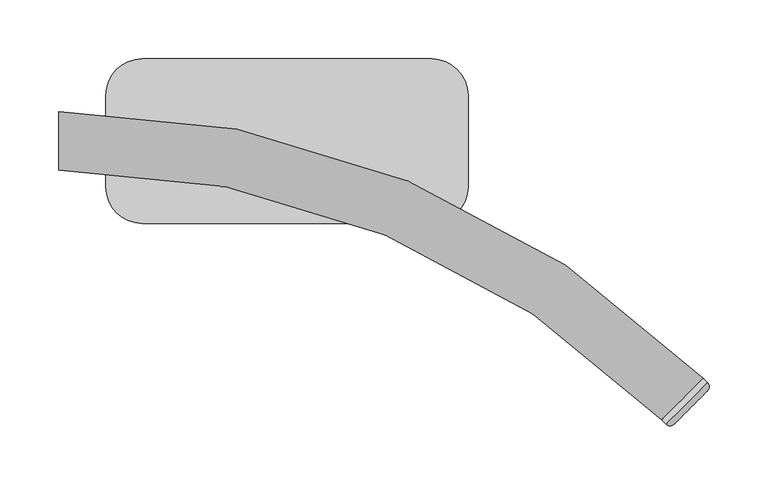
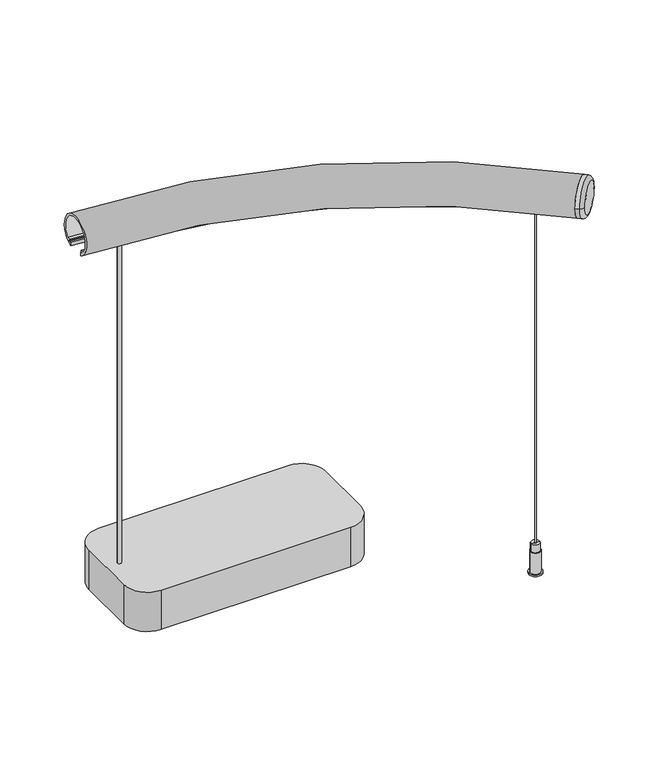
"""IFC4 building model written with IfcOpenShell, lengths in millimetres: light fixture geometry, ARTEMIDE-AoL-System-Curved_Suspended_US : Suspended_Curved 45°-750mm 1118lm 3500K."""

import ifcopenshell
import ifcopenshell.guid

model = None  # the IFC model being written
_history = None  # IfcOwnerHistory: only IFC2X3 demands one
_inside = {}  # id of a spatial element -> (the spatial element, [elements in it])
_under = {}  # id of a project, library or spatial element -> (it, [spatial elements below it])
_declared = {}  # id of a project -> (the project, [libraries it declares])
_typed = {}  # id of a type object -> (the type object, [elements of that type])
_made_of = {}  # id of a material, layer set ... -> (it, [elements and type objects made of it])


def new_model(schema):
    """Start an empty IFC model of exactly this schema.

    Asked for "IFC4X3", IfcOpenShell would pick the latest addendum, in which some entities
    have other attributes; the version numbers below select the first issue.
    IFC2X3 requires an IfcOwnerHistory on every rooted entity: one is made here for all.
    """
    global model, _history
    if schema == "IFC4X3":
        model = ifcopenshell.file(schema_version=(4, 3, 0, 0))
    else:
        model = ifcopenshell.file(schema=schema)
    _inside.clear()
    _under.clear()
    _declared.clear()
    _typed.clear()
    _made_of.clear()
    _history = None
    if model.schema == "IFC2X3":
        org = make("IfcOrganization", Name="unknown")
        user = make(
            "IfcPersonAndOrganization",
            ThePerson=make("IfcPerson", FamilyName="unknown"),
            TheOrganization=org,
        )
        app = make(
            "IfcApplication",
            ApplicationDeveloper=org,
            Version="unknown",
            ApplicationFullName="unknown",
            ApplicationIdentifier="unknown",
        )
        _history = make(
            "IfcOwnerHistory",
            OwningUser=user,
            OwningApplication=app,
            ChangeAction="ADDED",
            CreationDate=0,
        )
    return model


def make(cls, **values):
    """One entity of the class cls with the attributes given. An attribute that is None is left unset."""
    return model.create_entity(
        cls, **{name: value for name, value in values.items() if value is not None}
    )


def rooted(cls, **values):
    """An entity with a GlobalId (a new one), such as an element, a storey or a relation."""
    return make(cls, GlobalId=ifcopenshell.guid.new(), OwnerHistory=_history, **values)


def si_unit(unit_type, name, prefix=None):
    """IfcSIUnit, for example si_unit("LENGTHUNIT", "METRE", prefix="MILLI")."""
    return make("IfcSIUnit", UnitType=unit_type, Prefix=prefix, Name=name)


def assignment(units):
    """IfcUnitAssignment: the units of a project."""
    return None if units is None else make("IfcUnitAssignment", Units=units)


def point(xyz):
    """IfcCartesianPoint."""
    return None if xyz is None else make("IfcCartesianPoint", Coordinates=xyz)


def direction(xyz):
    """IfcDirection."""
    return None if xyz is None else make("IfcDirection", DirectionRatios=xyz)


def frame(location, z_axis=None, x_axis=None):
    """IfcAxis2Placement3D, a coordinate frame: its origin and axes. An axis left out is left unset."""
    return make(
        "IfcAxis2Placement3D",
        Location=point(location),
        Axis=direction(z_axis),
        RefDirection=direction(x_axis),
    )


def frame_2d(location, x_axis=None):
    """IfcAxis2Placement2D, a coordinate frame in the plane: its origin and x axis."""
    return make(
        "IfcAxis2Placement2D", Location=point(location), RefDirection=direction(x_axis)
    )


def origin():
    """The frame at (0, 0, 0) with its axes left unset."""
    return frame((0.0, 0.0, 0.0))


def origin_with_axes():
    """The frame at (0, 0, 0) with the z axis (0, 0, 1) and the x axis (1, 0, 0) written out."""
    return frame((0.0, 0.0, 0.0), z_axis=(0.0, 0.0, 1.0), x_axis=(1.0, 0.0, 0.0))


def place(relative_to, where):
    """IfcLocalPlacement: puts the frame where relative to a parent placement (None: the world)."""
    return make(
        "IfcLocalPlacement", PlacementRelTo=relative_to, RelativePlacement=where
    )


def context(
    kind, dimensions, precision=None, world=None, true_north=None, identifier=None
):
    """IfcGeometricRepresentationContext, for example the 3D "Model" context."""
    return make(
        "IfcGeometricRepresentationContext",
        ContextIdentifier=identifier,
        ContextType=kind,
        CoordinateSpaceDimension=dimensions,
        Precision=precision,
        WorldCoordinateSystem=world,
        TrueNorth=true_north,
    )


def project(units=None, contexts=None):
    """IfcProject with its units and contexts."""
    return rooted(
        "IfcProject",
        Name="project",
        RepresentationContexts=contexts,
        UnitsInContext=assignment(units),
    )


def spatial(cls, under=None, at=None, **own):
    """A site, building, storey or space (cls), placed at a placement, below another one or the project."""
    s = rooted(cls, ObjectPlacement=at, **own)
    if under is not None:
        _under.setdefault(under.id(), (under, []))[1].append(s)
    return s


def polyline(points):
    """IfcPolyline through the points."""
    return make("IfcPolyline", Points=[point(p) for p in points])


def circle_curve(where, radius):
    """IfcCircle in the frame where."""
    return make("IfcCircle", Position=where, Radius=radius)


def ellipse_curve(where, semi_axis1, semi_axis2):
    """IfcEllipse in the frame where."""
    return make(
        "IfcEllipse", Position=where, SemiAxis1=semi_axis1, SemiAxis2=semi_axis2
    )


def trimmed(basis, trim1, trim2, sense, master):
    """IfcTrimmedCurve: the piece of a basis curve between two trims."""
    return make(
        "IfcTrimmedCurve",
        BasisCurve=basis,
        Trim1=trim1,
        Trim2=trim2,
        SenseAgreement=sense,
        MasterRepresentation=master,
    )


def segment(curve, same_sense, transition):
    """IfcCompositeCurveSegment."""
    return make(
        "IfcCompositeCurveSegment",
        Transition=transition,
        SameSense=same_sense,
        ParentCurve=curve,
    )


def composite_curve(segments, self_intersect=None):
    """IfcCompositeCurve: segments joined end to end."""
    return make("IfcCompositeCurve", Segments=segments, SelfIntersect=self_intersect)


def outline(outer, holes=None, kind="AREA"):
    """IfcArbitraryClosedProfileDef: a profile drawn as a closed curve; with holes, ...WithVoids."""
    if holes is None:
        return make("IfcArbitraryClosedProfileDef", ProfileType=kind, OuterCurve=outer)
    return make(
        "IfcArbitraryProfileDefWithVoids",
        ProfileType=kind,
        OuterCurve=outer,
        InnerCurves=holes,
    )


def extrude(swept, where, along, depth):
    """IfcExtrudedAreaSolid: the profile swept, set in the frame where, extruded along a direction by depth."""
    return make(
        "IfcExtrudedAreaSolid",
        SweptArea=swept,
        Position=where,
        ExtrudedDirection=direction(along),
        Depth=depth,
    )


def shape(context_of_items, identifier, shape_type, items):
    """IfcShapeRepresentation: the items that make up one representation, for example the "Body"."""
    return make(
        "IfcShapeRepresentation",
        ContextOfItems=context_of_items,
        RepresentationIdentifier=identifier,
        RepresentationType=shape_type,
        Items=items,
    )


def source(mapping_origin, context_of_items, identifier, shape_type, items):
    """IfcRepresentationMap: a shape defined once, which mapped items show again and again."""
    return make(
        "IfcRepresentationMap",
        MappingOrigin=mapping_origin,
        MappedRepresentation=shape(context_of_items, identifier, shape_type, items),
    )


def transform(
    local_origin,
    x_axis=None,
    y_axis=None,
    z_axis=None,
    scale=None,
    scale2=None,
    scale3=None,
    uniform=True,
):
    """IfcCartesianTransformationOperator3D, or its non-uniform kind. x_axis, y_axis, z_axis: its Axis1, 2, 3."""
    if uniform:
        return make(
            "IfcCartesianTransformationOperator3D",
            Axis1=direction(x_axis),
            Axis2=direction(y_axis),
            LocalOrigin=point(local_origin),
            Scale=scale,
            Axis3=direction(z_axis),
        )
    return make(
        "IfcCartesianTransformationOperator3DnonUniform",
        Axis1=direction(x_axis),
        Axis2=direction(y_axis),
        LocalOrigin=point(local_origin),
        Scale=scale,
        Axis3=direction(z_axis),
        Scale2=scale2,
        Scale3=scale3,
    )


def mapped(mapping_source, mapping_target):
    """IfcMappedItem: shows the shape of a source again, moved by a transform."""
    return make(
        "IfcMappedItem", MappingSource=mapping_source, MappingTarget=mapping_target
    )


def made_of(thing, what):
    """Note that an element or type object is made of a material, layer set ...; save() writes the relation."""
    if what is not None:
        _made_of.setdefault(what.id(), (what, []))[1].append(thing)
    return thing


def element(
    cls,
    number,
    at=None,
    inside=None,
    cuts=None,
    type_object=None,
    material=None,
    context=None,
    identifier="Body",
    shape_type=None,
    held_by="IfcProductDefinitionShape",
    body=None,
    shapes=None,
    **own,
):
    """One element of the class cls, such as IfcWall. Its Tag is "e" and its number.

    at: its placement. inside: the storey or other place that contains it. cuts: it is an
    opening in that element (IfcRelVoidsElement). A single representation is given by context,
    identifier, shape_type and body (its items); several are given by shapes. held_by: the class
    of the entity that holds the representations. save() writes the other relations.
    """
    e = rooted(cls, Tag="e%d" % number, ObjectPlacement=at, **own)
    if body is not None:
        shapes = [shape(context, identifier, shape_type, body)]
    if shapes is not None:
        e.Representation = make(held_by, Representations=shapes)
    if inside is not None:
        _inside.setdefault(inside.id(), (inside, []))[1].append(e)
    if cuts is not None:
        rooted(
            "IfcRelVoidsElement", RelatingBuildingElement=cuts, RelatedOpeningElement=e
        )
    if type_object is not None:
        _typed.setdefault(type_object.id(), (type_object, []))[1].append(e)
    return made_of(e, material)


def aggregate(whole, parts):
    """IfcRelAggregates: a whole, such as a stair, and the parts it consists of."""
    return rooted("IfcRelAggregates", RelatingObject=whole, RelatedObjects=parts)


def save(model, path):
    """Write the relations noted so far, then the file.

    IfcRelAggregates (storeys below a building ...), IfcRelContainedInSpatialStructure (elements
    in a storey), IfcRelDefinesByType, IfcRelAssociatesMaterial and IfcRelDeclares: one each for
    every whole, place, type object, material and project.
    """
    for whole, parts in _under.values():
        aggregate(whole, parts)
    for where, things in _inside.values():
        rooted(
            "IfcRelContainedInSpatialStructure",
            RelatedElements=things,
            RelatingStructure=where,
        )
    for kind, things in _typed.values():
        rooted("IfcRelDefinesByType", RelatedObjects=things, RelatingType=kind)
    for what, things in _made_of.values():
        rooted("IfcRelAssociatesMaterial", RelatedObjects=things, RelatingMaterial=what)
    for by, libraries in _declared.values():
        rooted("IfcRelDeclares", RelatingContext=by, RelatedDefinitions=libraries)
    model.write(path)


def plane_surface(at):
    """IfcPlane: the flat surface through the origin of the frame at, square to its z axis."""
    return make("IfcPlane", Position=at)


def cylinder_surface(at, radius):
    """IfcCylindricalSurface: all points at the distance radius from the z axis of the frame at."""
    return make("IfcCylindricalSurface", Position=at, Radius=radius)


def revolved_surface(curve, axis_point, axis_direction):
    """IfcSurfaceOfRevolution: the curve turned about the line through axis_point along axis_direction."""
    return make(
        "IfcSurfaceOfRevolution",
        SweptCurve=make("IfcArbitraryOpenProfileDef", ProfileType="CURVE", Curve=curve),
        AxisPosition=make("IfcAxis1Placement", Location=point(axis_point), Axis=direction(axis_direction)),
    )


def advanced_brep(points, edges, surfaces, faces):
    """IfcAdvancedBrep: a solid bounded by faces that lie on surfaces and meet in shared edges.

    An edge is (start, end): straight between two places in points (the first is 0);
    or (start, end, curve); or (start, end, curve, False) where it runs against its curve.
    A face is (place in surfaces, loops), or (place, loops, False) where it looks against
    its surface's normal. A loop lists edges by number (the first is 1), with a minus sign
    where the edge is run from its end to its start. The first loop is the outer one.
    """
    corners = [point(p) for p in points]
    vertices = [make("IfcVertexPoint", VertexGeometry=c) for c in corners]
    made = []
    for start, end, *more in edges:
        made.append(
            make(
                "IfcEdgeCurve",
                EdgeStart=vertices[start],
                EdgeEnd=vertices[end],
                EdgeGeometry=more[0] if more else make("IfcPolyline", Points=[corners[start], corners[end]]),
                SameSense=more[1] if len(more) > 1 else True,
            )
        )
    hull = []
    for where, loops, *sense in faces:
        bounds = []
        for j, loop in enumerate(loops):
            ring = [make("IfcOrientedEdge", EdgeElement=made[abs(k) - 1], Orientation=k > 0) for k in loop]
            bounds.append(
                make(
                    "IfcFaceOuterBound" if j == 0 else "IfcFaceBound",
                    Bound=make("IfcEdgeLoop", EdgeList=ring),
                    Orientation=True,
                )
            )
        hull.append(make("IfcAdvancedFace", Bounds=bounds, FaceSurface=surfaces[where], SameSense=sense[0] if sense else True))
    return make("IfcAdvancedBrep", Outer=make("IfcClosedShell", CfsFaces=hull))


def light_fixture_bf7fd5e8(model_context):
    return source(origin(), model_context, "Body", "SolidModel", [
        advanced_brep(
        [(492.0, -183.9, 0.0), (492.8, -183.9, 0.0), (491.2, -183.9, 0.0), (491.2, -183.9, 510.0), (492.8, -183.9, 510.0), (492.0, -183.9, 510.0)],
        [
            (0, 1),
            (1, 2, circle_curve(frame((492.0, -183.9, 0.0), z_axis=(0.0, 0.0, -1.0), x_axis=(1.0, 0.0, 0.0)), 0.8)),
            (2, 0),
            (2, 1, circle_curve(frame((492.0, -183.9, 0.0), z_axis=(0.0, 0.0, -1.0), x_axis=(1.0, 0.0, 0.0)), 0.8)),
            (3, 4, circle_curve(frame((492.0, -183.9, 510.0), z_axis=(0.0, 0.0, 1.0), x_axis=(1.0, 0.0, 0.0)), 0.8)),
            (4, 5),
            (5, 3),
            (4, 3, circle_curve(frame((492.0, -183.9, 510.0), z_axis=(0.0, 0.0, 1.0), x_axis=(1.0, 0.0, 0.0)), 0.8)),
            (1, 4),
            (3, 2),
        ],
        [
            plane_surface(frame((492.0, -183.9, 0.0), z_axis=(0.0, 0.0, -1.0), x_axis=(1.0, 0.0, 0.0))),
            plane_surface(frame((492.0, -183.9, 510.0), z_axis=(0.0, 0.0, 1.0), x_axis=(1.0, 0.0, 0.0))),
            cylinder_surface(frame((492.0, -183.9, -15.0), z_axis=(0.0, 0.0, -1.0), x_axis=(1.0, 0.0, 0.0)), 0.8),
        ],
        [
            (0, [[1, 2, 3]]),
            (0, [[-3, 4, -1]]),
            (1, [[5, 6, 7]]),
            (1, [[8, -7, -6]]),
            (2, [[-2, 9, -5, 10]]),
            (2, [[-4, -10, -8, -9]]),
        ],
    ),
        advanced_brep(
        [(486.5097745, -183.9, 30.9721976), (497.4902255, -183.9, 30.9721976), (497.4902255, -183.9, 41.0209548), (486.5097745, -183.9, 41.0209548), (485.4476301, -183.9, 30.9721976), (498.5523699, -183.9, 30.9721976), (485.4476301, -183.9, 2.0209548), (498.5523699, -183.9, 2.0209548), (483.4476301, -183.9, 2.0209548), (500.5523699, -183.9, 2.0209548), (483.4476301, -183.9, 0.0), (500.5523699, -183.9, 0.0), (491.0, -183.9, 0.0), (493.0, -183.9, 0.0), (491.0, -183.9, 41.0209548), (493.0, -183.9, 41.0209548)],
        [
            (0, 1, circle_curve(frame((492.0, -183.9, 30.9721976), z_axis=(0.0, 0.0, 1.0), x_axis=(1.0, 0.0, 0.0)), 5.4902255)),
            (1, 2),
            (2, 3, circle_curve(frame((492.0, -183.9, 41.0209548), z_axis=(0.0, 0.0, -1.0), x_axis=(1.0, 0.0, 0.0)), 5.4902255)),
            (3, 0),
            (1, 0, circle_curve(frame((492.0, -183.9, 30.9721976), z_axis=(0.0, 0.0, 1.0), x_axis=(1.0, 0.0, 0.0)), 5.4902255)),
            (3, 2, circle_curve(frame((492.0, -183.9, 41.0209548), z_axis=(0.0, 0.0, -1.0), x_axis=(1.0, 0.0, 0.0)), 5.4902255)),
            (4, 5, circle_curve(frame((492.0, -183.9, 30.9721976), z_axis=(0.0, 0.0, 1.0), x_axis=(1.0, 0.0, 0.0)), 6.5523699)),
            (5, 1),
            (0, 4),
            (5, 4, circle_curve(frame((492.0, -183.9, 30.9721976), z_axis=(0.0, 0.0, 1.0), x_axis=(1.0, 0.0, 0.0)), 6.5523699)),
            (6, 7, circle_curve(frame((492.0, -183.9, 2.0209548), z_axis=(0.0, 0.0, 1.0), x_axis=(1.0, 0.0, 0.0)), 6.5523699)),
            (7, 5),
            (4, 6),
            (7, 6, circle_curve(frame((492.0, -183.9, 2.0209548), z_axis=(0.0, 0.0, 1.0), x_axis=(1.0, 0.0, 0.0)), 6.5523699)),
            (8, 9, circle_curve(frame((492.0, -183.9, 2.0209548), z_axis=(0.0, 0.0, 1.0), x_axis=(1.0, 0.0, 0.0)), 8.5523699)),
            (9, 7),
            (6, 8),
            (9, 8, circle_curve(frame((492.0, -183.9, 2.0209548), z_axis=(0.0, 0.0, 1.0), x_axis=(1.0, 0.0, 0.0)), 8.5523699)),
            (10, 11, circle_curve(frame((492.0, -183.9, 0.0), z_axis=(0.0, 0.0, 1.0), x_axis=(1.0, 0.0, 0.0)), 8.5523699)),
            (11, 9),
            (8, 10),
            (11, 10, circle_curve(frame((492.0, -183.9, 0.0), z_axis=(0.0, 0.0, 1.0), x_axis=(1.0, 0.0, 0.0)), 8.5523699)),
            (12, 13, circle_curve(frame((492.0, -183.9, 0.0), z_axis=(0.0, 0.0, 1.0), x_axis=(1.0, 0.0, 0.0)), 1.0)),
            (13, 11),
            (10, 12),
            (13, 12, circle_curve(frame((492.0, -183.9, 0.0), z_axis=(0.0, 0.0, 1.0), x_axis=(1.0, 0.0, 0.0)), 1.0)),
            (14, 15, circle_curve(frame((492.0, -183.9, 41.0209548), z_axis=(0.0, 0.0, 1.0), x_axis=(1.0, 0.0, 0.0)), 1.0)),
            (15, 13),
            (12, 14),
            (15, 14, circle_curve(frame((492.0, -183.9, 41.0209548), z_axis=(0.0, 0.0, 1.0), x_axis=(1.0, 0.0, 0.0)), 1.0)),
            (2, 15),
            (14, 3),
        ],
        [
            cylinder_surface(frame((492.0, -183.9, 46.0209548), z_axis=(0.0, 0.0, -1.0), x_axis=(1.0, 0.0, 0.0)), 5.4902255),
            plane_surface(frame((492.0, -183.9, 30.9721976), z_axis=(0.0, 0.0, 1.0), x_axis=(1.0, 0.0, 0.0))),
            cylinder_surface(frame((492.0, -183.9, 46.0209548), z_axis=(0.0, 0.0, -1.0), x_axis=(1.0, 0.0, 0.0)), 6.5523699),
            plane_surface(frame((492.0, -183.9, 2.0209548), z_axis=(0.0, 0.0, 1.0), x_axis=(1.0, 0.0, 0.0))),
            cylinder_surface(frame((492.0, -183.9, 46.0209548), z_axis=(0.0, 0.0, -1.0), x_axis=(1.0, 0.0, 0.0)), 8.5523699),
            plane_surface(frame((492.0, -183.9, 0.0), z_axis=(0.0, 0.0, -1.0), x_axis=(1.0, 0.0, 0.0))),
            revolved_surface(polyline([(493.0, -183.9, 0.0), (493.0, -183.9, 41.0209548)]), (492.0, -183.9, 46.0209548), (0.0, 0.0, -1.0)),
            plane_surface(frame((492.0, -183.9, 41.0209548), z_axis=(0.0, 0.0, 1.0), x_axis=(1.0, 0.0, 0.0))),
        ],
        [
            (0, [[1, 2, 3, 4]]),
            (0, [[5, -4, 6, -2]]),
            (1, [[7, 8, -1, 9]]),
            (1, [[10, -9, -5, -8]]),
            (2, [[11, 12, -7, 13]]),
            (2, [[14, -13, -10, -12]]),
            (3, [[15, 16, -11, 17]]),
            (3, [[18, -17, -14, -16]]),
            (4, [[19, 20, -15, 21]]),
            (4, [[22, -21, -18, -20]]),
            (5, [[23, 24, -19, 25]]),
            (5, [[26, -25, -22, -24]]),
            (6, [[27, 28, -23, 29]]),
            (6, [[30, -29, -26, -28]]),
            (7, [[-3, 31, -27, 32]]),
            (7, [[-6, -32, -30, -31]]),
        ],
    ),
        advanced_brep(
        [(538.2756646, -211.7243354, 502.6676119), (538.2756646, -211.7243354, 507.259212), (539.9946474, -210.0053526, 507.259212), (539.9946474, -210.0053526, 509.244074), (539.2875406, -210.7124594, 509.244074), (539.2875406, -210.7124594, 510.744074), (521.3726311, -228.6273689, 510.744074), (521.3726311, -228.6273689, 509.244074), (520.6655244, -229.3344756, 509.244074), (520.6655244, -229.3344756, 507.259212), (522.3845072, -227.6154928, 507.259212), (522.3845072, -227.6154928, 502.6676119), (51.5335196, -13.0363353, 502.6676119), (53.101191, 9.3824107, 502.6676119), (53.101191, 9.3824107, 507.259212), (53.2707696, 11.8074977, 507.259212), (53.2707696, 11.8074977, 509.244074), (53.2010132, 10.8099337, 509.244074), (53.2010132, 10.8099337, 510.744074), (51.4336975, -14.4638583, 510.744074), (51.4336975, -14.4638583, 509.244074), (51.363941, -15.4614223, 509.244074), (51.363941, -15.4614223, 507.259212), (51.5335196, -13.0363353, 507.259212)],
        [
            (0, 1),
            (1, 2),
            (2, 3),
            (3, 4),
            (4, 5),
            (5, 6),
            (6, 7),
            (7, 8),
            (8, 9),
            (9, 10),
            (10, 11),
            (11, 0, circle_curve(frame((530.3300859, -219.6699141, 525.0), z_axis=(0.7071067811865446, -0.7071067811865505, 0.0), x_axis=(0.7071067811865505, 0.7071067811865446, 0.0)), 25.0)),
            (11, 12, circle_curve(frame((0.0, -750.0, 502.6676119), z_axis=(0.0, 0.0, 1.0), x_axis=(0.0, 1.0, 0.0)), 738.7632549)),
            (12, 13, circle_curve(frame((52.3173553, -1.8269623, 525.0), z_axis=(0.9975640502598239, -0.0697564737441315, 0.0), x_axis=(0.0697564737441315, 0.9975640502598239, 0.0)), 25.0)),
            (13, 0, circle_curve(frame((0.0, -750.0, 502.6676119), z_axis=(0.0, 0.0, -1.0), x_axis=(0.0, 1.0, 0.0)), 761.2367451)),
            (13, 14),
            (14, 1, circle_curve(frame((0.0, -750.0, 507.259212), z_axis=(0.0, 0.0, -1.0), x_axis=(0.0, 1.0, 0.0)), 761.2367451)),
            (14, 15),
            (15, 2, circle_curve(frame((0.0, -750.0, 507.259212), z_axis=(0.0, 0.0, -1.0), x_axis=(0.0, 1.0, 0.0)), 763.667754)),
            (15, 16),
            (16, 3, circle_curve(frame((0.0, -750.0, 509.244074), z_axis=(0.0, 0.0, -1.0), x_axis=(0.0, 1.0, 0.0)), 763.667754)),
            (16, 17),
            (17, 4, circle_curve(frame((0.0, -750.0, 509.244074), z_axis=(0.0, 0.0, -1.0), x_axis=(0.0, 1.0, 0.0)), 762.667754)),
            (17, 18),
            (18, 5, circle_curve(frame((0.0, -750.0, 510.744074), z_axis=(0.0, 0.0, -1.0), x_axis=(0.0, 1.0, 0.0)), 762.667754)),
            (18, 19),
            (19, 6, circle_curve(frame((0.0, -750.0, 510.744074), z_axis=(0.0, 0.0, -1.0), x_axis=(0.0, 1.0, 0.0)), 737.332246)),
            (19, 20),
            (20, 7, circle_curve(frame((0.0, -750.0, 509.244074), z_axis=(0.0, 0.0, -1.0), x_axis=(0.0, 1.0, 0.0)), 737.332246)),
            (20, 21),
            (21, 8, circle_curve(frame((0.0, -750.0, 509.244074), z_axis=(0.0, 0.0, -1.0), x_axis=(0.0, 1.0, 0.0)), 736.332246)),
            (21, 22),
            (22, 9, circle_curve(frame((0.0, -750.0, 507.259212), z_axis=(0.0, 0.0, -1.0), x_axis=(0.0, 1.0, 0.0)), 736.332246)),
            (22, 23),
            (23, 10, circle_curve(frame((0.0, -750.0, 507.259212), z_axis=(0.0, 0.0, -1.0), x_axis=(0.0, 1.0, 0.0)), 738.7632549)),
            (23, 12),
        ],
        [
            plane_surface(frame((530.3300859, -219.6699141, 500.0), z_axis=(0.7071067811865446, -0.7071067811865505, 0.0), x_axis=(0.0, 0.0, 1.0))),
            revolved_surface(trimmed(ellipse_curve(frame((0.0, 0.0, 525.0), z_axis=(-1.0, 0.0, 0.0), x_axis=(0.0, 1.0, 0.0)), 25.0, 25.0), [point((0.0, 11.2367451, 502.6676119))], [point((0.0, -11.2367451, 502.6676119))], True, "CARTESIAN"), (0.0, -750.0, 500.0), (0.0, 0.0, -1.0)),
            cylinder_surface(frame((0.0, -750.0, 500.0), z_axis=(0.0, 0.0, -1.0), x_axis=(0.0, 1.0, 0.0)), 761.2367451),
            plane_surface(frame((0.0, -750.0, 507.259212), z_axis=(0.0, 0.0, -1.0), x_axis=(0.0, 1.0, 0.0))),
            cylinder_surface(frame((0.0, -750.0, 500.0), z_axis=(0.0, 0.0, -1.0), x_axis=(0.0, 1.0, 0.0)), 763.667754),
            plane_surface(frame((0.0, -750.0, 509.244074), z_axis=(0.0, 0.0, 1.0), x_axis=(0.0, 1.0, 0.0))),
            cylinder_surface(frame((0.0, -750.0, 500.0), z_axis=(0.0, 0.0, -1.0), x_axis=(0.0, 1.0, 0.0)), 762.667754),
            plane_surface(frame((0.0, -750.0, 510.744074), z_axis=(0.0, 0.0, 1.0), x_axis=(0.0, 1.0, 0.0))),
            revolved_surface(polyline([(0.0, -12.667753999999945, 509.244074), (0.0, -12.667753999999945, 510.744074)]), (0.0, -750.0, 500.0), (0.0, 0.0, -1.0)),
            revolved_surface(polyline([(0.0, -13.667753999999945, 507.259212), (0.0, -13.667753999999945, 509.244074)]), (0.0, -750.0, 500.0), (0.0, 0.0, -1.0)),
            revolved_surface(polyline([(0.0, -11.236745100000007, 502.6676119), (0.0, -11.236745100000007, 507.259212)]), (0.0, -750.0, 500.0), (0.0, 0.0, -1.0)),
            plane_surface(frame((52.3173553, -1.8269623, 500.0), z_axis=(-0.997564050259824, 0.06975647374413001, 0.0), x_axis=(0.0, 0.0, 1.0))),
        ],
        [
            (0, [[1, 2, 3, 4, 5, 6, 7, 8, 9, 10, 11, 12]]),
            (1, [[-12, 13, 14, 15]]),
            (2, [[-1, -15, 16, 17]]),
            (3, [[-2, -17, 18, 19]]),
            (4, [[-3, -19, 20, 21]]),
            (5, [[-4, -21, 22, 23]]),
            (6, [[-5, -23, 24, 25]]),
            (7, [[-6, -25, 26, 27]]),
            (8, [[-7, -27, 28, 29]]),
            (5, [[-8, -29, 30, 31]]),
            (9, [[-9, -31, 32, 33]]),
            (3, [[-10, -33, 34, 35]]),
            (10, [[-11, -35, 36, -13]]),
            (11, [[-14, -36, -34, -32, -30, -28, -26, -24, -22, -20, -18, -16]]),
        ],
    ),
        advanced_brep(
        [(523.2590181, -240.8831175, 525.0), (551.5432893, -212.5988463, 525.0), (512.6524164, -237.3475836, 525.0), (548.0077554, -201.9922446, 525.0), (551.5432893, -205.5277785, 525.0), (516.1879503, -240.8831175, 525.0)],
        [
            (0, 1, circle_curve(frame((537.4011537, -226.7409819, 525.0), z_axis=(0.7071067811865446, -0.7071067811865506, 0.0), x_axis=(0.7071067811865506, 0.7071067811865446, 0.0)), 20.0)),
            (1, 0, circle_curve(frame((537.4011537, -226.7409819, 525.0), z_axis=(0.7071067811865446, -0.7071067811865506, 0.0), x_axis=(-0.7071067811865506, -0.7071067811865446, 0.0)), 20.0)),
            (2, 3, circle_curve(frame((530.3300859, -219.6699141, 525.0), z_axis=(-0.7071067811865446, 0.7071067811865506, 0.0), x_axis=(0.0, 0.0, 1.0)), 25.0)),
            (3, 2, circle_curve(frame((530.3300859, -219.6699141, 525.0), z_axis=(-0.7071067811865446, 0.7071067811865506, 0.0), x_axis=(0.0, 0.0, 1.0)), 25.0)),
            (3, 4),
            (4, 5, circle_curve(frame((533.8656198, -223.205448, 525.0), z_axis=(-0.7071067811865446, 0.7071067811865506, 0.0), x_axis=(0.0, 0.0, 1.0)), 25.0)),
            (5, 2),
            (5, 4, circle_curve(frame((533.8656198, -223.205448, 525.0), z_axis=(-0.7071067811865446, 0.7071067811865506, 0.0), x_axis=(0.0, 0.0, 1.0)), 25.0)),
            (0, 5, circle_curve(frame((519.7234842, -237.3475836, 525.0), z_axis=(0.0, 0.0, -1.0000000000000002), x_axis=(-0.7071067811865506, -0.7071067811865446, 0.0)), 5.0)),
            (4, 1, circle_curve(frame((548.0077554, -209.0633124, 525.0), z_axis=(0.0, 0.0, -1.0000000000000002), x_axis=(0.7071067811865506, 0.7071067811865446, 0.0)), 5.0)),
        ],
        [
            plane_surface(frame((537.4011537, -226.7409819, 550.0), z_axis=(0.7071067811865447, -0.7071067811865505, 0.0), x_axis=(-0.7071067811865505, -0.7071067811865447, 0.0))),
            plane_surface(frame((530.3300859, -219.6699141, 550.0), z_axis=(-0.7071067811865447, 0.7071067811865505, 0.0), x_axis=(0.7071067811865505, 0.7071067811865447, 0.0))),
            cylinder_surface(frame((530.3300859, -219.6699141, 525.0), z_axis=(0.7071067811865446, -0.7071067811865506, 0.0), x_axis=(0.0, 0.0, 1.0)), 25.0),
            revolved_surface(trimmed(ellipse_curve(frame((548.0077554, -209.0633124, 525.0), z_axis=(0.0, 0.0, 1.0000000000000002), x_axis=(0.7071067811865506, 0.7071067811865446, 0.0)), 5.0, 5.0), [point((551.5432893, -212.5988463, 525.0))], [point((551.5432893, -205.5277785, 525.0))], True, "CARTESIAN"), (537.4011537, -226.7409819, 525.0), (-0.7071067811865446, 0.7071067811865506, 0.0)),
            revolved_surface(trimmed(ellipse_curve(frame((519.7234842, -237.3475836, 525.0), z_axis=(0.0, 0.0, -1.0000000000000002), x_axis=(-0.7071067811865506, -0.7071067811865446, 0.0)), 5.0, 5.0), [point((523.2590181, -240.8831175, 525.0))], [point((516.1879503, -240.8831175, 525.0))], True, "CARTESIAN"), (537.4011537, -226.7409819, 525.0), (-0.7071067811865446, 0.7071067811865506, 0.0)),
        ],
        [
            (0, [[1, 2]]),
            (1, [[3, 4]]),
            (2, [[-4, 5, 6, 7]]),
            (2, [[-3, -7, 8, -5]]),
            (3, [[9, -6, 10, -1]]),
            (4, [[-9, -2, -10, -8]]),
        ],
    ),
        advanced_brep(
        [(0.0, -11.2367451, 502.6676119), (0.0, 11.2367451, 502.6676119), (0.0, 11.2367451, 507.259212), (0.0, 13.667754, 507.259212), (0.0, 13.667754, 505.8288843), (0.0, 15.617754, 507.2440748), (0.0, 15.617754, 509.244074), (0.0, 12.667754, 509.244074), (0.0, 12.667754, 510.744074), (0.0, 17.2779794, 510.744074), (0.0, -17.2779794, 510.744074), (0.0, -12.667754, 510.744074), (0.0, -12.667754, 509.244074), (0.0, -15.617754, 509.244074), (0.0, -15.617754, 507.2440748), (0.0, -13.667754, 505.8288843), (0.0, -13.667754, 507.259212), (0.0, -11.2367451, 507.259212), (522.3845072, -227.6154928, 502.6676119), (522.3845072, -227.6154928, 507.259212), (520.6655244, -229.3344756, 507.259212), (520.6655244, -229.3344756, 505.8288843), (519.2866661, -230.7133339, 507.2440748), (519.2866661, -230.7133339, 509.244074), (521.3726311, -228.6273689, 509.244074), (521.3726311, -228.6273689, 510.744074), (518.1127095, -231.8872905, 510.744074), (542.5474623, -207.4525377, 510.744074), (539.2875406, -210.7124594, 510.744074), (539.2875406, -210.7124594, 509.244074), (541.3735056, -208.6264943, 509.244074), (541.3735056, -208.6264943, 507.2440748), (539.9946474, -210.0053526, 505.8288843), (539.9946474, -210.0053526, 507.259212), (538.2756646, -211.7243354, 507.259212), (538.2756646, -211.7243354, 502.6676119)],
        [
            (0, 1, circle_curve(frame((0.0, 0.0, 525.0), z_axis=(-1.0, 0.0, 0.0), x_axis=(0.0, 1.0, 0.0)), 25.0)),
            (1, 2),
            (2, 3),
            (3, 4),
            (4, 5),
            (5, 6),
            (6, 7),
            (7, 8),
            (8, 9),
            (9, 10, circle_curve(frame((0.0, 0.0, 525.0), z_axis=(1.0, 0.0, 0.0), x_axis=(0.0, 1.0, 0.0)), 22.4)),
            (10, 11),
            (11, 12),
            (12, 13),
            (13, 14),
            (14, 15),
            (15, 16),
            (16, 17),
            (17, 0),
            (18, 19),
            (19, 20),
            (20, 21),
            (21, 22),
            (22, 23),
            (23, 24),
            (24, 25),
            (25, 26),
            (26, 27, circle_curve(frame((530.3300859, -219.6699141, 525.0), z_axis=(-0.7071067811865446, 0.7071067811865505, 0.0), x_axis=(0.7071067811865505, 0.7071067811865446, 0.0)), 22.4)),
            (27, 28),
            (28, 29),
            (29, 30),
            (30, 31),
            (31, 32),
            (32, 33),
            (33, 34),
            (34, 35),
            (35, 18, circle_curve(frame((530.3300859, -219.6699141, 525.0), z_axis=(0.7071067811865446, -0.7071067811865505, 0.0), x_axis=(0.7071067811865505, 0.7071067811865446, 0.0)), 25.0)),
            (35, 1, circle_curve(frame((0.0, -750.0, 502.6676119), z_axis=(0.0, 0.0, 1.0), x_axis=(0.0, 1.0, 0.0)), 761.2367451)),
            (0, 18, circle_curve(frame((0.0, -750.0, 502.6676119), z_axis=(0.0, 0.0, -1.0), x_axis=(0.0, 1.0, 0.0)), 738.7632549)),
            (34, 2, circle_curve(frame((0.0, -750.0, 507.259212), z_axis=(0.0, 0.0, 1.0), x_axis=(0.0, 1.0, 0.0)), 761.2367451)),
            (33, 3, circle_curve(frame((0.0, -750.0, 507.259212), z_axis=(0.0, 0.0, 1.0), x_axis=(0.0, 1.0, 0.0)), 763.667754)),
            (32, 4, circle_curve(frame((0.0, -750.0, 505.8288843), z_axis=(0.0, 0.0, 1.0), x_axis=(0.0, 1.0, 0.0)), 763.667754)),
            (31, 5, circle_curve(frame((0.0, -750.0, 507.2440748), z_axis=(0.0, 0.0, 1.0), x_axis=(0.0, 1.0, 0.0)), 765.617754)),
            (30, 6, circle_curve(frame((0.0, -750.0, 509.244074), z_axis=(0.0, 0.0, 1.0), x_axis=(0.0, 1.0, 0.0)), 765.617754)),
            (29, 7, circle_curve(frame((0.0, -750.0, 509.244074), z_axis=(0.0, 0.0, 1.0), x_axis=(0.0, 1.0, 0.0)), 762.667754)),
            (28, 8, circle_curve(frame((0.0, -750.0, 510.744074), z_axis=(0.0, 0.0, 1.0), x_axis=(0.0, 1.0, 0.0)), 762.667754)),
            (27, 9, circle_curve(frame((0.0, -750.0, 510.744074), z_axis=(0.0, 0.0, 1.0), x_axis=(0.0, 1.0, 0.0)), 767.2779794)),
            (25, 11, circle_curve(frame((0.0, -750.0, 510.744074), z_axis=(0.0, 0.0, 1.0), x_axis=(0.0, 1.0, 0.0)), 737.332246)),
            (10, 26, circle_curve(frame((0.0, -750.0, 510.744074), z_axis=(0.0, 0.0, -1.0), x_axis=(0.0, 1.0, 0.0)), 732.7220206)),
            (24, 12, circle_curve(frame((0.0, -750.0, 509.244074), z_axis=(0.0, 0.0, 1.0), x_axis=(0.0, 1.0, 0.0)), 737.332246)),
            (23, 13, circle_curve(frame((0.0, -750.0, 509.244074), z_axis=(0.0, 0.0, 1.0), x_axis=(0.0, 1.0, 0.0)), 734.382246)),
            (22, 14, circle_curve(frame((0.0, -750.0, 507.2440748), z_axis=(0.0, 0.0, 1.0), x_axis=(0.0, 1.0, 0.0)), 734.382246)),
            (21, 15, circle_curve(frame((0.0, -750.0, 505.8288843), z_axis=(0.0, 0.0, 1.0), x_axis=(0.0, 1.0, 0.0)), 736.332246)),
            (20, 16, circle_curve(frame((0.0, -750.0, 507.259212), z_axis=(0.0, 0.0, 1.0), x_axis=(0.0, 1.0, 0.0)), 736.332246)),
            (19, 17, circle_curve(frame((0.0, -750.0, 507.259212), z_axis=(0.0, 0.0, 1.0), x_axis=(0.0, 1.0, 0.0)), 738.7632549)),
        ],
        [
            plane_surface(frame((0.0, 0.0, 500.0), z_axis=(-1.0, 0.0, 0.0), x_axis=(0.0, 0.0, 1.0))),
            plane_surface(frame((530.3300859, -219.6699141, 500.0), z_axis=(0.7071067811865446, -0.7071067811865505, 0.0), x_axis=(0.0, 0.0, 1.0))),
            revolved_surface(trimmed(ellipse_curve(frame((0.0, 0.0, 525.0), z_axis=(-1.0, 0.0, 0.0), x_axis=(0.0, 1.0, 0.0)), 25.0, 25.0), [point((0.0, -11.2367451, 502.6676119))], [point((0.0, 11.2367451, 502.6676119))], True, "CARTESIAN"), (0.0, -750.0, 500.0), (0.0, 0.0, -1.0)),
            revolved_surface(polyline([(0.0, 11.236745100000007, 502.6676119), (0.0, 11.236745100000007, 507.259212)]), (0.0, -750.0, 500.0), (0.0, 0.0, -1.0)),
            plane_surface(frame((0.0, -750.0, 507.259212), z_axis=(0.0, 0.0, 1.0), x_axis=(0.0, 1.0, 0.0))),
            cylinder_surface(frame((0.0, -750.0, 500.0), z_axis=(0.0, 0.0, -1.0), x_axis=(0.0, 1.0, 0.0)), 763.667754),
            revolved_surface(polyline([(0.0, 13.667754, 505.8288843), (0.0, 15.617754, 507.2440748)]), (0.0, -750.0, 500.0), (0.0, 0.0, -1.0)),
            revolved_surface(polyline([(0.0, 15.61775399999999, 507.2440748), (0.0, 15.61775399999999, 509.244074)]), (0.0, -750.0, 500.0), (0.0, 0.0, -1.0)),
            plane_surface(frame((0.0, -750.0, 509.244074), z_axis=(0.0, 0.0, -1.0), x_axis=(0.0, 1.0, 0.0))),
            revolved_surface(polyline([(0.0, 12.667753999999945, 509.244074), (0.0, 12.667753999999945, 510.744074)]), (0.0, -750.0, 500.0), (0.0, 0.0, -1.0)),
            plane_surface(frame((0.0, -750.0, 510.744074), z_axis=(0.0, 0.0, 1.0), x_axis=(0.0, 1.0, 0.0))),
            cylinder_surface(frame((0.0, -750.0, 500.0), z_axis=(0.0, 0.0, -1.0), x_axis=(0.0, 1.0, 0.0)), 737.332246),
            cylinder_surface(frame((0.0, -750.0, 500.0), z_axis=(0.0, 0.0, -1.0), x_axis=(0.0, 1.0, 0.0)), 734.382246),
            revolved_surface(polyline([(0.0, -15.617754, 507.2440748), (0.0, -13.667754, 505.8288843)]), (0.0, -750.0, 500.0), (0.0, 0.0, -1.0)),
            revolved_surface(polyline([(0.0, -13.667753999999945, 505.8288843), (0.0, -13.667753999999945, 507.259212)]), (0.0, -750.0, 500.0), (0.0, 0.0, -1.0)),
            cylinder_surface(frame((0.0, -750.0, 500.0), z_axis=(0.0, 0.0, -1.0), x_axis=(0.0, 1.0, 0.0)), 738.7632549),
            revolved_surface(trimmed(ellipse_curve(frame((0.0, 0.0, 525.0), z_axis=(1.0, 0.0, 0.0), x_axis=(0.0, 1.0, 0.0)), 22.4, 22.4), [point((0.0, 17.2779794, 510.744074))], [point((0.0, -17.2779794, 510.744074))], True, "CARTESIAN"), (0.0, -750.0, 500.0), (0.0, 0.0, -1.0)),
        ],
        [
            (0, [[1, 2, 3, 4, 5, 6, 7, 8, 9, 10, 11, 12, 13, 14, 15, 16, 17, 18]]),
            (1, [[19, 20, 21, 22, 23, 24, 25, 26, 27, 28, 29, 30, 31, 32, 33, 34, 35, 36]]),
            (2, [[37, -1, 38, -36]]),
            (3, [[39, -2, -37, -35]]),
            (4, [[40, -3, -39, -34]]),
            (5, [[41, -4, -40, -33]]),
            (6, [[42, -5, -41, -32]]),
            (7, [[43, -6, -42, -31]]),
            (8, [[44, -7, -43, -30]]),
            (9, [[45, -8, -44, -29]]),
            (10, [[46, -9, -45, -28]]),
            (10, [[47, -11, 48, -26]]),
            (11, [[49, -12, -47, -25]]),
            (8, [[50, -13, -49, -24]]),
            (12, [[51, -14, -50, -23]]),
            (13, [[52, -15, -51, -22]]),
            (14, [[53, -16, -52, -21]]),
            (4, [[54, -17, -53, -20]]),
            (15, [[-38, -18, -54, -19]]),
            (16, [[-48, -10, -46, -27]]),
        ],
    ),
        extrude(outline(composite_curve([segment(polyline([(70.8708919, 70.020892), (317.1291081, 70.020892)]), True, "CONTINUOUS"), segment(trimmed(circle_curve(frame_2d((317.1291081, 39.1500001)), 30.8708919), [point((317.1291081, 70.020892))], [point((348.0, 39.1500001))], False, "CARTESIAN"), True, "CONTINUOUS"), segment(polyline([(348.0, 39.1500001), (348.0, -39.1500001)]), True, "CONTINUOUS"), segment(trimmed(circle_curve(frame_2d((317.1291081, -39.1500001)), 30.8708919), [point((348.0, -39.1500001))], [point((317.1291081, -70.020892))], False, "CARTESIAN"), True, "CONTINUOUS"), segment(polyline([(317.1291081, -70.020892), (70.8708919, -70.020892)]), True, "CONTINUOUS"), segment(trimmed(circle_curve(frame_2d((70.8708919, -39.1500001)), 30.8708919), [point((70.8708919, -70.020892))], [point((40.0, -39.1500001))], False, "CARTESIAN"), True, "CONTINUOUS"), segment(polyline([(40.0, -39.1500001), (40.0, 39.1500001)]), True, "CONTINUOUS"), segment(trimmed(circle_curve(frame_2d((70.8708919, 39.1500001)), 30.8708919), [point((40.0, 39.1500001))], [point((70.8708919, 70.020892))], False, "CARTESIAN"), True, "CONTINUOUS")], self_intersect=False)), origin_with_axes(), (0.0, 0.0, 1.0), 54.0),
        extrude(outline(composite_curve([segment(trimmed(circle_curve(frame_2d((57.0, 0.0)), 2.5), [point((54.5, 0.0))], [point((59.5, 0.0))], False, "CARTESIAN"), True, "CONTINUOUS"), segment(trimmed(circle_curve(frame_2d((57.0, 0.0)), 2.5), [point((59.5, 0.0))], [point((54.5, 0.0))], False, "CARTESIAN"), True, "CONTINUOUS")], self_intersect=False)), origin_with_axes(), (0.0, 0.0, 1.0), 507.2),
    ])


if __name__ == "__main__":
    model = new_model("IFC4")
    model_context = context("Model", 3, world=origin())
    ifc_project = project(units=[si_unit("LENGTHUNIT", "METRE", prefix="MILLI")], contexts=[model_context])
    site = spatial("IfcSite", under=ifc_project)
    building = spatial("IfcBuilding", under=site)
    placement = place(None, origin())
    light_fixture_shape = light_fixture_bf7fd5e8(model_context)
    element("IfcLightFixture", 1, ObjectType="ARTEMIDE-AoL-System-Curved_Suspended_US : Suspended_Curved 45°-750mm 1118lm 3500K", at=placement, inside=building, context=model_context, shape_type="MappedRepresentation", body=[
        mapped(light_fixture_shape, transform((0.0, 0.0, 0.0), x_axis=(1.0, 0.0, 0.0), y_axis=(0.0, 1.0, 0.0), z_axis=(0.0, 0.0, 1.0))),
    ])
    save(model, "model.ifc")
